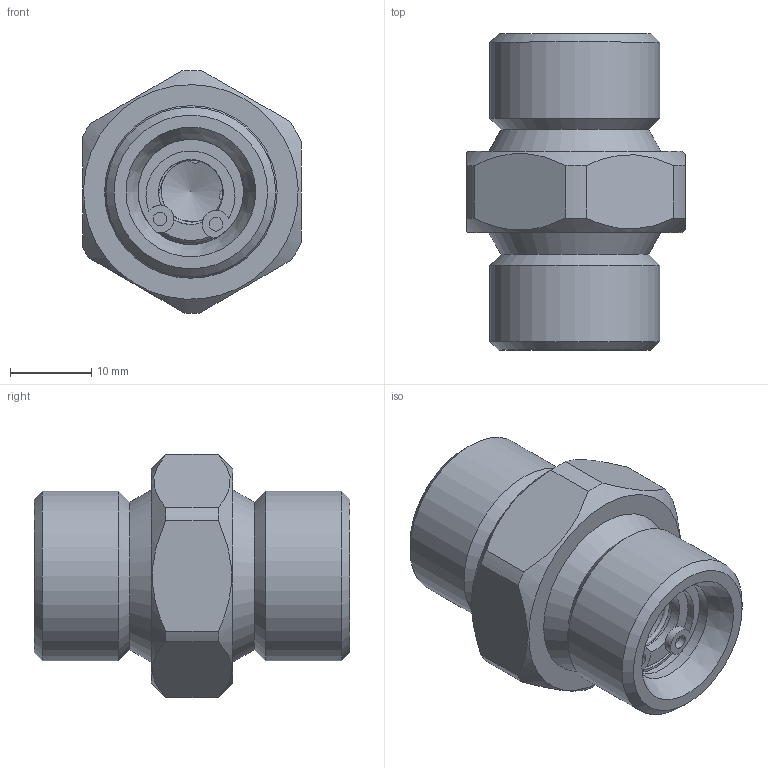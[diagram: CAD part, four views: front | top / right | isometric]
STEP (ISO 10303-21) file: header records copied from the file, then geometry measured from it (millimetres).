
FILE_DESCRIPTION(/* description */ ('Unknown'),/* implementation_level */ '2;1');
FILE_NAME(/* name */ 'VU-MM12',/* time_stamp */ '2024-12-05T10:45:58+01:00',/* author */ ('Unknown'),/* organization */ ('Unknown'),/* preprocessor_version */ 'ST-DEVELOPER v19.4',/* originating_system */ 'Solid Edge',/* authorisation */ 'Unknown');
FILE_SCHEMA (('AUTOMOTIVE_DESIGN {1 0 10303 214 3 1 1}'));
Length unit declared in the file: millimetre
Products named in the file (1): VU-MM12
Bounding box: 26.97 x 38.96 x 29.97 mm (x, y, z)
Volume: 11805.7 mm3; surface area: 7081.9 mm2
Topology: 1 solids, 1 shells, 79 faces, 208 edges, 135 vertices
Faces by surface type: cylinder 31, plane 28, cone 19, bspline 1
Full cylindrical faces by diameter (mm): 1.698 x2, 5 x4, 7.992 x1, 8 x1, 8.991 x2, 10 x1, 10.5 x1, 11.988 x1, 12.537 x1, 12.91 x1, 12.987 x2, 13.586 x1, 20.934 x2
Entity records: 5174 total; most frequent: CARTESIAN_POINT 3024, DIRECTION 340, ORIENTED_EDGE 264, AXIS2_PLACEMENT_3D 162, FACE_BOUND 136, EDGE_LOOP 135, EDGE_CURVE 132, VERTEX_POINT 102
